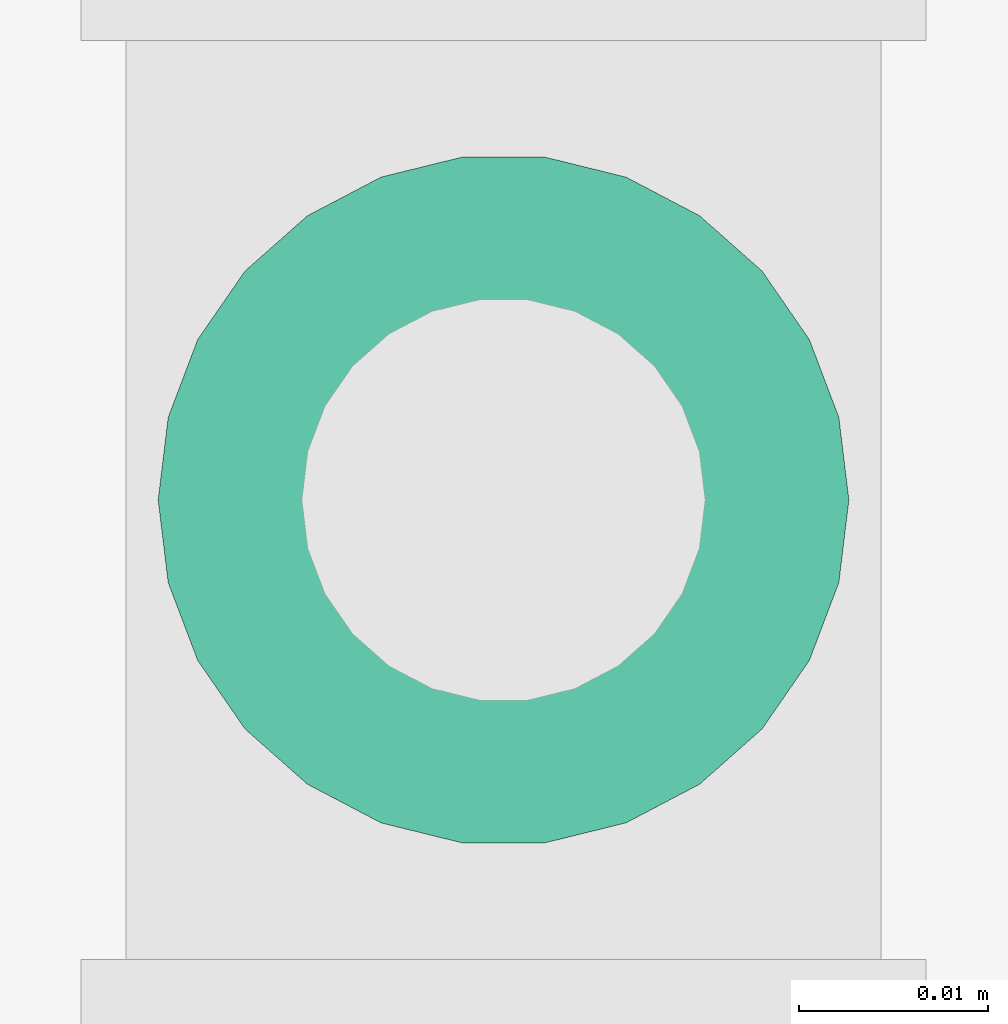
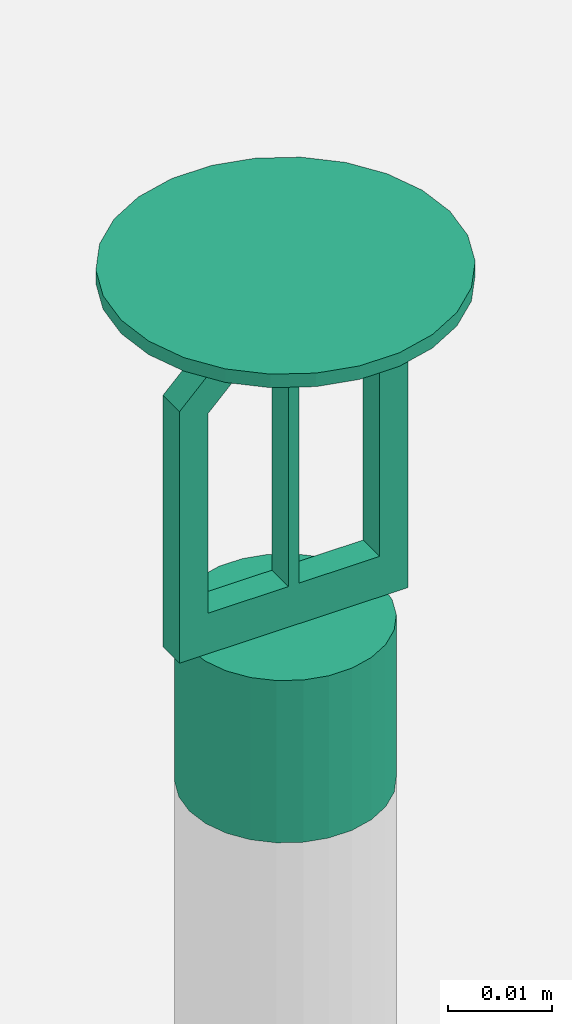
# One storey, part 92 of 108: 1 fire suppression terminal.
"""IFC4 building model written with IfcOpenShell, lengths in feet."""

import ifcopenshell
import ifcopenshell.guid

model = None  # the IFC model being written
_history = None  # IfcOwnerHistory: only IFC2X3 demands one
_inside = {}  # id of a spatial element -> (the spatial element, [elements in it])
_under = {}  # id of a project, library or spatial element -> (it, [spatial elements below it])
_declared = {}  # id of a project -> (the project, [libraries it declares])
_typed = {}  # id of a type object -> (the type object, [elements of that type])
_made_of = {}  # id of a material, layer set ... -> (it, [elements and type objects made of it])


def new_model(schema):
    """Start an empty IFC model of exactly this schema.

    Asked for "IFC4X3", IfcOpenShell would pick the latest addendum, in which some entities
    have other attributes; the version numbers below select the first issue.
    IFC2X3 requires an IfcOwnerHistory on every rooted entity: one is made here for all.
    """
    global model, _history
    if schema == "IFC4X3":
        model = ifcopenshell.file(schema_version=(4, 3, 0, 0))
    else:
        model = ifcopenshell.file(schema=schema)
    _inside.clear()
    _under.clear()
    _declared.clear()
    _typed.clear()
    _made_of.clear()
    _history = None
    if model.schema == "IFC2X3":
        org = make("IfcOrganization", Name="unknown")
        user = make(
            "IfcPersonAndOrganization",
            ThePerson=make("IfcPerson", FamilyName="unknown"),
            TheOrganization=org,
        )
        app = make(
            "IfcApplication",
            ApplicationDeveloper=org,
            Version="unknown",
            ApplicationFullName="unknown",
            ApplicationIdentifier="unknown",
        )
        _history = make(
            "IfcOwnerHistory",
            OwningUser=user,
            OwningApplication=app,
            ChangeAction="ADDED",
            CreationDate=0,
        )
    return model


def make(cls, **values):
    """One entity of the class cls with the attributes given. An attribute that is None is left unset."""
    return model.create_entity(
        cls, **{name: value for name, value in values.items() if value is not None}
    )


def entity(cls, *values):
    """Any entity or typed value of the class cls, its attributes in the order of the schema. None: left unset."""
    e = model.create_entity(cls)
    for i, value in enumerate(values):
        if value is not None:
            e[i] = value
    return e


def rooted(cls, **values):
    """An entity with a GlobalId (a new one), such as an element, a storey or a relation."""
    return make(cls, GlobalId=ifcopenshell.guid.new(), OwnerHistory=_history, **values)


def si_unit(unit_type, name, prefix=None):
    """IfcSIUnit, for example si_unit("LENGTHUNIT", "METRE", prefix="MILLI")."""
    return make("IfcSIUnit", UnitType=unit_type, Prefix=prefix, Name=name)


def converted_unit(unit_type, name, factor, base, dimensions=None, offset=None):
    """IfcConversionBasedUnit, such as the inch: factor (a typed value) times the base unit."""
    return make(
        "IfcConversionBasedUnit"
        if offset is None
        else "IfcConversionBasedUnitWithOffset",
        ConversionOffset=offset,
        Dimensions=None
        if dimensions is None
        else entity("IfcDimensionalExponents", *dimensions),
        UnitType=unit_type,
        Name=name,
        ConversionFactor=make(
            "IfcMeasureWithUnit", ValueComponent=factor, UnitComponent=base
        ),
    )


def derived_unit(unit_type, elements):
    """IfcDerivedUnit: a product of units, each with its exponent."""
    return make(
        "IfcDerivedUnit",
        Elements=[
            make("IfcDerivedUnitElement", Unit=unit, Exponent=power)
            for unit, power in elements
        ],
        UnitType=unit_type,
    )


def assignment(units):
    """IfcUnitAssignment: the units of a project."""
    return None if units is None else make("IfcUnitAssignment", Units=units)


def point(xyz):
    """IfcCartesianPoint."""
    return None if xyz is None else make("IfcCartesianPoint", Coordinates=xyz)


def direction(xyz):
    """IfcDirection."""
    return None if xyz is None else make("IfcDirection", DirectionRatios=xyz)


def frame(location, z_axis=None, x_axis=None):
    """IfcAxis2Placement3D, a coordinate frame: its origin and axes. An axis left out is left unset."""
    return make(
        "IfcAxis2Placement3D",
        Location=point(location),
        Axis=direction(z_axis),
        RefDirection=direction(x_axis),
    )


def frame_2d(location, x_axis=None):
    """IfcAxis2Placement2D, a coordinate frame in the plane: its origin and x axis."""
    return make(
        "IfcAxis2Placement2D", Location=point(location), RefDirection=direction(x_axis)
    )


def origin():
    """The frame at (0, 0, 0) with its axes left unset."""
    return frame((0.0, 0.0, 0.0))


def place(relative_to, where):
    """IfcLocalPlacement: puts the frame where relative to a parent placement (None: the world)."""
    return make(
        "IfcLocalPlacement", PlacementRelTo=relative_to, RelativePlacement=where
    )


def context(
    kind, dimensions, precision=None, world=None, true_north=None, identifier=None
):
    """IfcGeometricRepresentationContext, for example the 3D "Model" context."""
    return make(
        "IfcGeometricRepresentationContext",
        ContextIdentifier=identifier,
        ContextType=kind,
        CoordinateSpaceDimension=dimensions,
        Precision=precision,
        WorldCoordinateSystem=world,
        TrueNorth=true_north,
    )


def subcontext(parent, identifier, kind, view, scale=None):
    """IfcGeometricRepresentationSubContext, for example "Body" below "Model"."""
    return make(
        "IfcGeometricRepresentationSubContext",
        ContextIdentifier=identifier,
        ContextType=kind,
        ParentContext=parent,
        TargetScale=scale,
        TargetView=view,
    )


def project(units=None, contexts=None):
    """IfcProject with its units and contexts."""
    return rooted(
        "IfcProject",
        Name="project",
        RepresentationContexts=contexts,
        UnitsInContext=assignment(units),
    )


def spatial(cls, under=None, at=None, **own):
    """A site, building, storey or space (cls), placed at a placement, below another one or the project."""
    s = rooted(cls, ObjectPlacement=at, **own)
    if under is not None:
        _under.setdefault(under.id(), (under, []))[1].append(s)
    return s


def polyline(points):
    """IfcPolyline through the points."""
    return make("IfcPolyline", Points=[point(p) for p in points])


def profile(cls, at=None, kind="AREA", **sizes):
    """A parametric profile (cls). Its sizes go by their IFC names, for example OverallWidth=200.0."""
    return make(cls, ProfileType=kind, Position=at, **sizes)


def circle(**sizes):
    """IfcCircleProfileDef."""
    return profile("IfcCircleProfileDef", **sizes)


def outline(outer, holes=None, kind="AREA"):
    """IfcArbitraryClosedProfileDef: a profile drawn as a closed curve; with holes, ...WithVoids."""
    if holes is None:
        return make("IfcArbitraryClosedProfileDef", ProfileType=kind, OuterCurve=outer)
    return make(
        "IfcArbitraryProfileDefWithVoids",
        ProfileType=kind,
        OuterCurve=outer,
        InnerCurves=holes,
    )


def extrude(swept, where, along, depth):
    """IfcExtrudedAreaSolid: the profile swept, set in the frame where, extruded along a direction by depth."""
    return make(
        "IfcExtrudedAreaSolid",
        SweptArea=swept,
        Position=where,
        ExtrudedDirection=direction(along),
        Depth=depth,
    )


def shape(context_of_items, identifier, shape_type, items):
    """IfcShapeRepresentation: the items that make up one representation, for example the "Body"."""
    return make(
        "IfcShapeRepresentation",
        ContextOfItems=context_of_items,
        RepresentationIdentifier=identifier,
        RepresentationType=shape_type,
        Items=items,
    )


def source(mapping_origin, context_of_items, identifier, shape_type, items):
    """IfcRepresentationMap: a shape defined once, which mapped items show again and again."""
    return make(
        "IfcRepresentationMap",
        MappingOrigin=mapping_origin,
        MappedRepresentation=shape(context_of_items, identifier, shape_type, items),
    )


def transform(
    local_origin,
    x_axis=None,
    y_axis=None,
    z_axis=None,
    scale=None,
    scale2=None,
    scale3=None,
    uniform=True,
):
    """IfcCartesianTransformationOperator3D, or its non-uniform kind. x_axis, y_axis, z_axis: its Axis1, 2, 3."""
    if uniform:
        return make(
            "IfcCartesianTransformationOperator3D",
            Axis1=direction(x_axis),
            Axis2=direction(y_axis),
            LocalOrigin=point(local_origin),
            Scale=scale,
            Axis3=direction(z_axis),
        )
    return make(
        "IfcCartesianTransformationOperator3DnonUniform",
        Axis1=direction(x_axis),
        Axis2=direction(y_axis),
        LocalOrigin=point(local_origin),
        Scale=scale,
        Axis3=direction(z_axis),
        Scale2=scale2,
        Scale3=scale3,
    )


def mapped(mapping_source, mapping_target):
    """IfcMappedItem: shows the shape of a source again, moved by a transform."""
    return make(
        "IfcMappedItem", MappingSource=mapping_source, MappingTarget=mapping_target
    )


def material(Name=None, Category=None):
    """IfcMaterial."""
    return make("IfcMaterial", Name=Name, Category=Category)


def made_of(thing, what):
    """Note that an element or type object is made of a material, layer set ...; save() writes the relation."""
    if what is not None:
        _made_of.setdefault(what.id(), (what, []))[1].append(thing)
    return thing


def type_object(cls, material=None, **own):
    """A type object (cls), such as IfcWallType, which elements share."""
    return made_of(rooted(cls, **own), material)


def type_shapes(of_type, sources):
    """Give a type object the sources (RepresentationMaps) that its elements show as mapped items."""
    of_type.RepresentationMaps = sources


def element(
    cls,
    number,
    at=None,
    inside=None,
    cuts=None,
    type_object=None,
    material=None,
    context=None,
    identifier="Body",
    shape_type=None,
    held_by="IfcProductDefinitionShape",
    body=None,
    shapes=None,
    **own,
):
    """One element of the class cls, such as IfcWall. Its Tag is "e" and its number.

    at: its placement. inside: the storey or other place that contains it. cuts: it is an
    opening in that element (IfcRelVoidsElement). A single representation is given by context,
    identifier, shape_type and body (its items); several are given by shapes. held_by: the class
    of the entity that holds the representations. save() writes the other relations.
    """
    e = rooted(cls, Tag="e%d" % number, ObjectPlacement=at, **own)
    if body is not None:
        shapes = [shape(context, identifier, shape_type, body)]
    if shapes is not None:
        e.Representation = make(held_by, Representations=shapes)
    if inside is not None:
        _inside.setdefault(inside.id(), (inside, []))[1].append(e)
    if cuts is not None:
        rooted(
            "IfcRelVoidsElement", RelatingBuildingElement=cuts, RelatedOpeningElement=e
        )
    if type_object is not None:
        _typed.setdefault(type_object.id(), (type_object, []))[1].append(e)
    return made_of(e, material)


def aggregate(whole, parts):
    """IfcRelAggregates: a whole, such as a stair, and the parts it consists of."""
    return rooted("IfcRelAggregates", RelatingObject=whole, RelatedObjects=parts)


def save(model, path):
    """Write the relations noted so far, then the file.

    IfcRelAggregates (storeys below a building ...), IfcRelContainedInSpatialStructure (elements
    in a storey), IfcRelDefinesByType, IfcRelAssociatesMaterial and IfcRelDeclares: one each for
    every whole, place, type object, material and project.
    """
    for whole, parts in _under.values():
        aggregate(whole, parts)
    for where, things in _inside.values():
        rooted(
            "IfcRelContainedInSpatialStructure",
            RelatedElements=things,
            RelatingStructure=where,
        )
    for kind, things in _typed.values():
        rooted("IfcRelDefinesByType", RelatedObjects=things, RelatingType=kind)
    for what, things in _made_of.values():
        rooted("IfcRelAssociatesMaterial", RelatedObjects=things, RelatingMaterial=what)
    for by, libraries in _declared.values():
        rooted("IfcRelDeclares", RelatingContext=by, RelatedDefinitions=libraries)
    model.write(path)


model = new_model("IFC4")

# Units and contexts
model_context = context("Model", 3, precision=0.0001, world=origin(), true_north=direction((6.12303176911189e-17, 1.0)))
body_context = subcontext(model_context, "Body", "Model", "MODEL_VIEW")
ifc_project = project(units=[converted_unit("LENGTHUNIT", "FOOT", entity("IfcRatioMeasure", 0.3048), si_unit("LENGTHUNIT", "METRE"), dimensions=[1, 0, 0, 0, 0, 0, 0]), converted_unit("AREAUNIT", "SQUARE FOOT", entity("IfcRatioMeasure", 0.09290304), si_unit("AREAUNIT", "SQUARE_METRE"), dimensions=[2, 0, 0, 0, 0, 0, 0]), converted_unit("VOLUMEUNIT", "CUBIC FOOT", entity("IfcRatioMeasure", 0.028316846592), si_unit("VOLUMEUNIT", "CUBIC_METRE"), dimensions=[3, 0, 0, 0, 0, 0, 0]), converted_unit("PLANEANGLEUNIT", "DEGREE", entity("IfcRatioMeasure", 0.0174532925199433), si_unit("PLANEANGLEUNIT", "RADIAN"), dimensions=[0, 0, 0, 0, 0, 0, 0]), si_unit("MASSUNIT", "GRAM", prefix="KILO"), derived_unit("MASSDENSITYUNIT", [(si_unit("MASSUNIT", "GRAM", prefix="KILO"), 1), (si_unit("LENGTHUNIT", "METRE"), -3)]), si_unit("TIMEUNIT", "SECOND"), si_unit("FREQUENCYUNIT", "HERTZ"), si_unit("THERMODYNAMICTEMPERATUREUNIT", "DEGREE_CELSIUS"), derived_unit("THERMALTRANSMITTANCEUNIT", [(si_unit("MASSUNIT", "GRAM", prefix="KILO"), 1), (si_unit("THERMODYNAMICTEMPERATUREUNIT", "KELVIN"), -1), (si_unit("TIMEUNIT", "SECOND"), -3)]), derived_unit("VOLUMETRICFLOWRATEUNIT", [(si_unit("LENGTHUNIT", "METRE"), 3), (si_unit("TIMEUNIT", "SECOND"), -1)]), si_unit("ELECTRICCURRENTUNIT", "AMPERE"), si_unit("ELECTRICVOLTAGEUNIT", "VOLT"), si_unit("POWERUNIT", "WATT"), si_unit("FORCEUNIT", "NEWTON"), si_unit("ILLUMINANCEUNIT", "LUX"), si_unit("LUMINOUSFLUXUNIT", "LUMEN"), si_unit("LUMINOUSINTENSITYUNIT", "CANDELA"), derived_unit("USERDEFINED", [(si_unit("MASSUNIT", "GRAM", prefix="KILO"), -1), (si_unit("LENGTHUNIT", "METRE"), -2), (si_unit("TIMEUNIT", "SECOND"), 3), (si_unit("LUMINOUSFLUXUNIT", "LUMEN"), 1)]), derived_unit("LINEARVELOCITYUNIT", [(si_unit("LENGTHUNIT", "METRE"), 1), (si_unit("TIMEUNIT", "SECOND"), -1)]), si_unit("PRESSUREUNIT", "PASCAL"), derived_unit("USERDEFINED", [(si_unit("LENGTHUNIT", "METRE"), -2), (si_unit("MASSUNIT", "GRAM", prefix="KILO"), 1), (si_unit("TIMEUNIT", "SECOND"), -2)])], contexts=[model_context])

# Site, building, storey
site_placement = place(None, origin())
site = spatial("IfcSite", under=ifc_project, at=site_placement, Name="Default", CompositionType="ELEMENT")
building_placement = place(site_placement, origin())
building = spatial("IfcBuilding", under=site, at=building_placement, CompositionType="ELEMENT")
storey_placement = place(building_placement, frame((0.0, 0.0, 168.0)))
storey = spatial("IfcBuildingStorey", under=building, at=storey_placement, Name="Level 15", CompositionType="ELEMENT", Elevation=168.0)

# Fire suppression terminal
ifc_material = material(Name="Default", Category="Miscellaneous")
fire_suppression_terminal_type = type_object("IfcFireSuppressionTerminalType", Name="Standard", PredefinedType="NOTDEFINED", material=ifc_material)
shared_shape = source(origin(), body_context, "Body", "SweptSolid", [
    extrude(outline(polyline([(-0.0416666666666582, -0.0872160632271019), (0.0416666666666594, -0.0872160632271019), (0.0416666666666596, 0.00964585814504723), (0.0167345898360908, 0.0345779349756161), (0.0167345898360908, 0.0429922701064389), (-0.0167345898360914, 0.0429922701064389), (-0.0167345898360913, 0.0345779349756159), (-0.0416666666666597, 0.00964585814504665), (-0.0416666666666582, -0.0872160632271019)]), holes=[polyline([(0.00195312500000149, -0.0715910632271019), (0.00195312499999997, 0.0261635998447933), (0.0104175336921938, 0.0261635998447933), (0.0312499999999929, 0.00533113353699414), (0.0312499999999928, -0.0715910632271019), (0.00195312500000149, -0.0715910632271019)]), polyline([(-0.0019531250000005, -0.0715910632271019), (-0.0312499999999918, -0.0715910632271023), (-0.031249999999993, 0.00533113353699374), (-0.0104175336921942, 0.0261635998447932), (-0.00195312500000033, 0.0261635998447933), (-0.0019531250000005, -0.0715910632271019)])]), frame((0.0, -0.00520833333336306, 0.14971606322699), z_axis=(0.0, 1.0, 0.0), x_axis=(-1.0, 0.0, 0.0)), (0.0, 0.0, 1.0), 0.0104166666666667),
    extrude(circle(Radius=0.035, at=frame_2d((-2.76586283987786e-18, -4.44862351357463e-17), x_axis=(1.0, 0.0))), frame((0.0, 0.0, 0.0), z_axis=(0.0, 0.0, 1.0), x_axis=(-1.0, 0.0, 0.0)), (0.0, 0.0, 1.0), 0.0624999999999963),
    extrude(circle(Radius=0.0598958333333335, at=frame_2d((5.01992838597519e-20, -7.61297178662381e-17), x_axis=(1.0, 0.0))), frame((0.0, 0.0, 0.192708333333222), z_axis=(0.0, 0.0, 1.0), x_axis=(-1.0, 0.0, 0.0)), (0.0, 0.0, 1.0), 0.00520833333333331),
])
type_shapes(fire_suppression_terminal_type, [shared_shape])
fire_suppression_terminal_placement = place(storey_placement, frame((-25.7607221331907, 0.518419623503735, 10.9166666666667)))
element("IfcFireSuppressionTerminal", 1, at=fire_suppression_terminal_placement, inside=storey, type_object=fire_suppression_terminal_type, material=ifc_material, Name="Upright:Standard", ObjectType="Upright:Standard", PredefinedType="NOTDEFINED", context=body_context, shape_type="MappedRepresentation", body=[
    mapped(shared_shape, transform((0.0, 0.0, 0.0), scale=1.0)),
])

save(model, "model.ifc")
